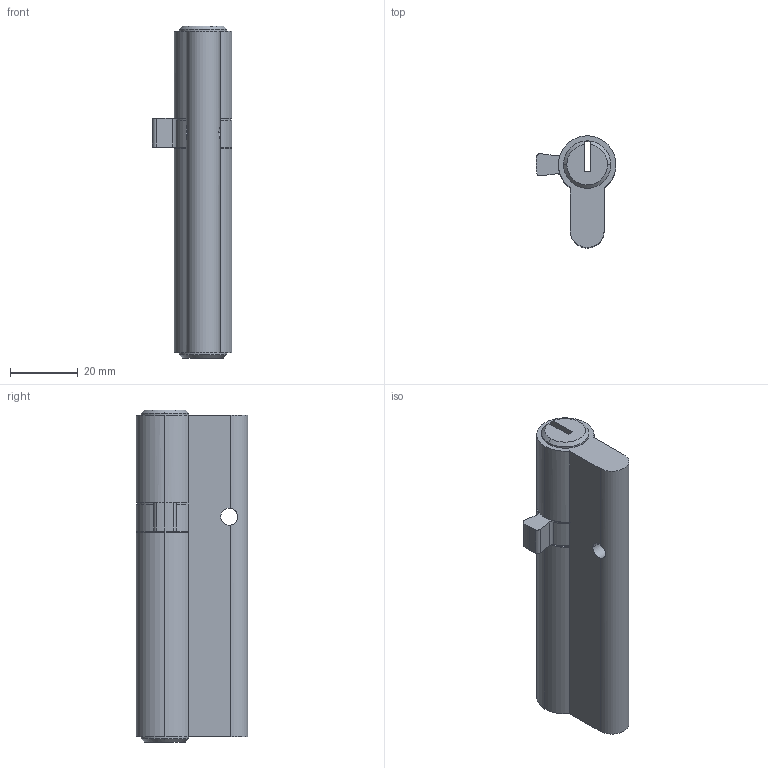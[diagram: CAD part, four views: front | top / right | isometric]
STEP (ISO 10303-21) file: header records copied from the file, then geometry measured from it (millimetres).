
FILE_DESCRIPTION (( 'STEP AP214' ), '1' );
FILE_NAME ('TPL-H-EU-522-R 29Oct2024.STEP', '2024-10-29T22:30:09', ( '' ), ( '' ), 'SwSTEP 2.0', 'SolidWorks 2023', '' );
FILE_SCHEMA (( 'AUTOMOTIVE_DESIGN' ));
Length unit declared in the file: millimetre
Products named in the file (1): TPL-H-EU-522-R 29Oct2024
Bounding box: 23.6 x 33 x 98 mm (x, y, z)
Volume: 35186.9 mm3; surface area: 11264.4 mm2
Topology: 1 solids, 1 shells, 52 faces, 144 edges, 90 vertices
Faces by surface type: cylinder 30, plane 16, cone 6
Entity records: 1775 total; most frequent: CARTESIAN_POINT 363, DIRECTION 314, ORIENTED_EDGE 288, EDGE_CURVE 144, AXIS2_PLACEMENT_3D 125, VERTEX_POINT 90, CIRCLE 72, LINE 64
